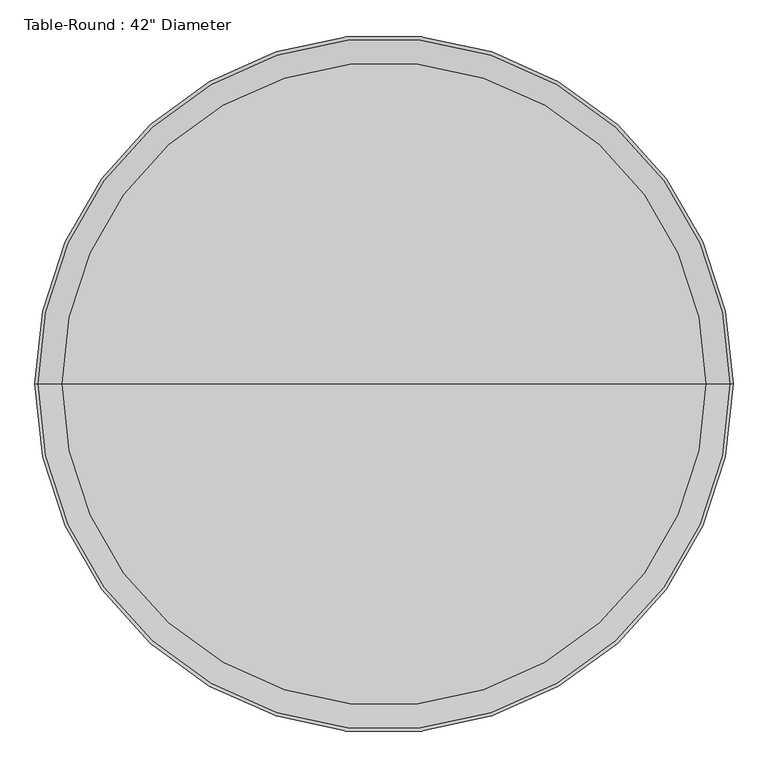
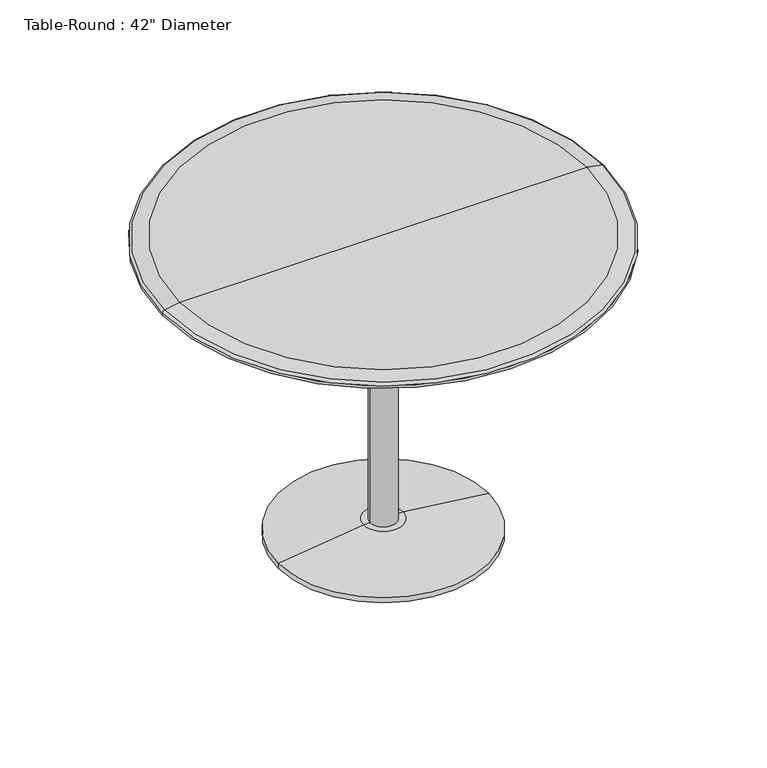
"""IFC4 building model written with IfcOpenShell, lengths in millimetres: furniture geometry."""

from ifc_helpers import new_model, si_unit, point, frame, origin, origin_2d, place, context, project, spatial, polyline, circle_curve, ellipse_curve, trimmed, segment, composite_curve, outline, extrude, source, transform, mapped, element, save
from ifc_brep_helpers import plane_surface, cylinder_surface, revolved_surface, advanced_brep


def furniture_77f0a01d(model_context):
    return source(origin(), model_context, "Body", "SolidModel", [
        extrude(outline(composite_curve([segment(trimmed(circle_curve(origin_2d(), 31.75), [point((-31.75, 0.0))], [point((31.75, 0.0))], False, "CARTESIAN"), True, "CONTINUOUS"), segment(trimmed(circle_curve(origin_2d(), 31.75), [point((31.75, 0.0))], [point((-31.75, 0.0))], False, "CARTESIAN"), True, "CONTINUOUS")], self_intersect=False)), frame((0.0, 0.0, 38.1), z_axis=(0.0, 0.0, 1.0), x_axis=(1.0, 0.0, 0.0)), (0.0, 0.0, 1.0), 704.85),
        advanced_brep(
        [(0.0, 0.0, 742.95), (-533.4, 0.0, 742.95), (533.4, 0.0, 742.95), (491.5011364, 0.0, 762.0), (-491.5011364, 0.0, 762.0), (0.0, 0.0, 762.0), (528.1526659, 0.0, 755.5373465), (-528.1526659, 0.0, 755.5373465), (533.4, 0.0, 749.2838172), (-533.4, 0.0, 749.2838172)],
        [
            (0, 1),
            (1, 2, circle_curve(frame((0.0, 0.0, 742.95), z_axis=(0.0, 0.0, -1.0), x_axis=(-1.0, 0.0, 0.0)), 533.4)),
            (2, 0),
            (2, 1, circle_curve(frame((0.0, 0.0, 742.95), z_axis=(0.0, 0.0, -1.0), x_axis=(-1.0, 0.0, 0.0)), 533.4)),
            (3, 4, circle_curve(frame((0.0, 0.0, 762.0), z_axis=(0.0, 0.0, 1.0), x_axis=(-1.0, 0.0, 0.0)), 491.5011364)),
            (4, 5),
            (5, 3),
            (4, 3, circle_curve(frame((0.0, 0.0, 762.0), z_axis=(0.0, 0.0, 1.0), x_axis=(-1.0, 0.0, 0.0)), 491.5011364)),
            (6, 7, circle_curve(frame((0.0, 0.0, 755.5373465), z_axis=(0.0, 0.0, 1.0), x_axis=(-1.0, 0.0, 0.0)), 528.1526659)),
            (7, 4),
            (3, 6),
            (7, 6, circle_curve(frame((0.0, 0.0, 755.5373465), z_axis=(0.0, 0.0, 1.0), x_axis=(-1.0, 0.0, 0.0)), 528.1526659)),
            (8, 9, circle_curve(frame((0.0, 0.0, 749.2838172), z_axis=(0.0, 0.0, 1.0), x_axis=(-1.0, 0.0, 0.0)), 533.4)),
            (9, 7, circle_curve(frame((-527.05, 0.0, 749.2838172), z_axis=(0.0, 1.0, 0.0), x_axis=(1.0, 0.0, 0.0)), 6.35)),
            (6, 8, circle_curve(frame((527.05, 0.0, 749.2838172), z_axis=(0.0, 1.0, 0.0), x_axis=(-1.0, 0.0, 0.0)), 6.35)),
            (9, 8, circle_curve(frame((0.0, 0.0, 749.2838172), z_axis=(0.0, 0.0, 1.0), x_axis=(-1.0, 0.0, 0.0)), 533.4)),
            (1, 9),
            (8, 2),
        ],
        [
            plane_surface(frame((0.0, 0.0, 742.95), z_axis=(0.0, 0.0, -1.0), x_axis=(-1.0, 0.0, 0.0))),
            plane_surface(frame((0.0, 0.0, 762.0), z_axis=(0.0, 0.0, 1.0), x_axis=(-1.0, 0.0, 0.0))),
            revolved_surface(polyline([(-491.5011364, 0.0, 762.0), (-528.1526659, 0.0, 755.5373465)]), (0.0, 0.0, 838.2), (0.0, 0.0, -1.0)),
            revolved_surface(trimmed(ellipse_curve(frame((-527.05, 0.0, 749.2838172), z_axis=(0.0, -1.0, 0.0), x_axis=(1.0, 0.0, 0.0)), 6.35, 6.35), [point((-528.1526659, 0.0, 755.5373465))], [point((-533.4, 0.0, 749.2838172))], True, "CARTESIAN"), (0.0, 0.0, 838.2), (0.0, 0.0, -1.0)),
            cylinder_surface(frame((0.0, 0.0, 838.2), z_axis=(0.0, 0.0, -1.0), x_axis=(-1.0, 0.0, 0.0)), 533.4),
        ],
        [
            (0, [[1, 2, 3]]),
            (0, [[-3, 4, -1]]),
            (1, [[5, 6, 7]]),
            (1, [[8, -7, -6]]),
            (2, [[9, 10, -5, 11]]),
            (2, [[12, -11, -8, -10]]),
            (3, [[13, 14, -9, 15]]),
            (3, [[16, -15, -12, -14]]),
            (4, [[-2, 17, -13, 18]]),
            (4, [[-4, -18, -16, -17]]),
        ],
    ),
        advanced_brep(
        [(0.0, 0.0, 0.0), (-254.0, 0.0, 0.0), (254.0, 0.0, 0.0), (47.625, 0.0, 38.1), (-47.625, 0.0, 38.1), (0.0, 0.0, 38.1), (254.0, 0.0, 12.7), (-254.0, 0.0, 12.7)],
        [
            (0, 1),
            (1, 2, circle_curve(frame((0.0, 0.0, 0.0), z_axis=(0.0, 0.0, -1.0), x_axis=(-1.0, 0.0, 0.0)), 254.0)),
            (2, 0),
            (2, 1, circle_curve(frame((0.0, 0.0, 0.0), z_axis=(0.0, 0.0, -1.0), x_axis=(-1.0, 0.0, 0.0)), 254.0)),
            (3, 4, circle_curve(frame((0.0, 0.0, 38.1), z_axis=(0.0, 0.0, 1.0), x_axis=(-1.0, 0.0, 0.0)), 47.625)),
            (4, 5),
            (5, 3),
            (4, 3, circle_curve(frame((0.0, 0.0, 38.1), z_axis=(0.0, 0.0, 1.0), x_axis=(-1.0, 0.0, 0.0)), 47.625)),
            (6, 7, circle_curve(frame((0.0, 0.0, 12.7), z_axis=(0.0, 0.0, 1.0), x_axis=(-1.0, 0.0, 0.0)), 254.0)),
            (7, 4),
            (3, 6),
            (7, 6, circle_curve(frame((0.0, 0.0, 12.7), z_axis=(0.0, 0.0, 1.0), x_axis=(-1.0, 0.0, 0.0)), 254.0)),
            (1, 7),
            (6, 2),
        ],
        [
            plane_surface(frame((0.0, 0.0, 0.0), z_axis=(0.0, 0.0, -1.0), x_axis=(-1.0, 0.0, 0.0))),
            plane_surface(frame((0.0, 0.0, 38.1), z_axis=(0.0, 0.0, 1.0), x_axis=(-1.0, 0.0, 0.0))),
            revolved_surface(polyline([(-47.625, 0.0, 38.1), (-254.0, 0.0, 12.7)]), (0.0, 0.0, 215.9), (0.0, 0.0, -1.0)),
            cylinder_surface(frame((0.0, 0.0, 215.9), z_axis=(0.0, 0.0, -1.0), x_axis=(-1.0, 0.0, 0.0)), 254.0),
        ],
        [
            (0, [[1, 2, 3]]),
            (0, [[-3, 4, -1]]),
            (1, [[5, 6, 7]]),
            (1, [[8, -7, -6]]),
            (2, [[9, 10, -5, 11]]),
            (2, [[12, -11, -8, -10]]),
            (3, [[-2, 13, -9, 14]]),
            (3, [[-4, -14, -12, -13]]),
        ],
    ),
    ])


if __name__ == "__main__":
    model = new_model("IFC4")
    model_context = context("Model", 3, world=origin())
    ifc_project = project(units=[si_unit("LENGTHUNIT", "METRE", prefix="MILLI")], contexts=[model_context])
    site = spatial("IfcSite", under=ifc_project)
    building = spatial("IfcBuilding", under=site)
    placement = place(None, origin())
    furniture_shape = furniture_77f0a01d(model_context)
    element("IfcFurniture", 1, ObjectType="Table-Round : 42\" Diameter", at=placement, inside=building, context=model_context, shape_type="MappedRepresentation", body=[
        mapped(furniture_shape, transform((0.0, 0.0, 0.0), x_axis=(1.0, 0.0, 0.0), y_axis=(0.0, 1.0, 0.0), z_axis=(0.0, 0.0, 1.0))),
    ])
    save(model, "model.ifc")
